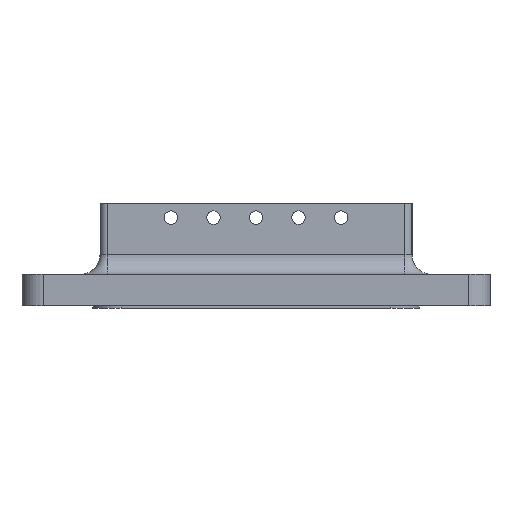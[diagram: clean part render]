
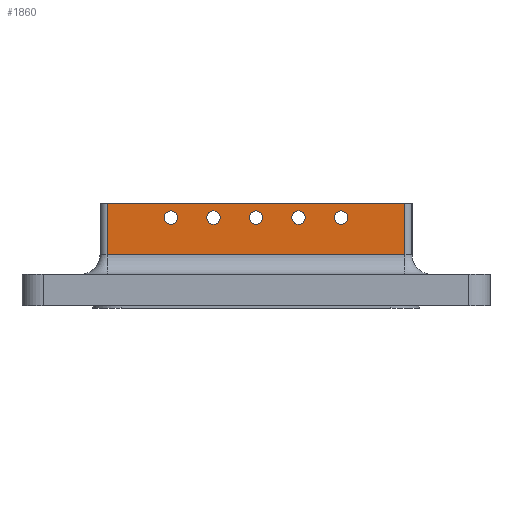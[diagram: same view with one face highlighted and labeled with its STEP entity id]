
A CAD part, left-side view. The second image highlights one B-rep face of the part: STEP entity #1860.
In plain terms, the highlighted planar face has unit normal (-1, 0, 0).
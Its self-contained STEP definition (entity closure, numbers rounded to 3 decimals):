
#1860=ADVANCED_FACE('Rib.2',(#4361,#4362,#4363,#4364,#4365,#4366),#4367,.T.);
#4361=FACE_OUTER_BOUND('',#7700,.T.);
#4362=FACE_BOUND('',#7701,.T.);
#4363=FACE_BOUND('',#7702,.T.);
#4364=FACE_BOUND('',#7703,.T.);
#4365=FACE_BOUND('',#7704,.T.);
#4366=FACE_BOUND('',#7705,.T.);
#4367=PLANE('',#7706);
#7700=EDGE_LOOP('',(#12936,#12937,#12938,#12939));
#7701=EDGE_LOOP('',(#12940,#12941,#12942,#12943));
#7702=EDGE_LOOP('',(#12944,#12945,#12946,#12947));
#7703=EDGE_LOOP('',(#12948,#12949,#12950,#12951));
#7704=EDGE_LOOP('',(#12952,#12953,#12954,#12955));
#7705=EDGE_LOOP('',(#12956,#12957,#12958,#12959));
#7706=AXIS2_PLACEMENT_3D('',#12960,#12961,#12962);
#12936=ORIENTED_EDGE('',*,*,#20414,.F.);
#12937=ORIENTED_EDGE('',*,*,#20476,.F.);
#12938=ORIENTED_EDGE('',*,*,#20473,.T.);
#12939=ORIENTED_EDGE('',*,*,#20374,.F.);
#12940=ORIENTED_EDGE('',*,*,#19409,.F.);
#12941=ORIENTED_EDGE('',*,*,#19412,.F.);
#12942=ORIENTED_EDGE('',*,*,#20477,.F.);
#12943=ORIENTED_EDGE('',*,*,#20478,.F.);
#12944=ORIENTED_EDGE('',*,*,#19310,.F.);
#12945=ORIENTED_EDGE('',*,*,#19313,.F.);
#12946=ORIENTED_EDGE('',*,*,#20479,.F.);
#12947=ORIENTED_EDGE('',*,*,#20480,.F.);
#12948=ORIENTED_EDGE('',*,*,#19382,.F.);
#12949=ORIENTED_EDGE('',*,*,#19385,.F.);
#12950=ORIENTED_EDGE('',*,*,#20481,.F.);
#12951=ORIENTED_EDGE('',*,*,#20482,.F.);
#12952=ORIENTED_EDGE('',*,*,#19274,.F.);
#12953=ORIENTED_EDGE('',*,*,#19277,.F.);
#12954=ORIENTED_EDGE('',*,*,#20483,.F.);
#12955=ORIENTED_EDGE('',*,*,#20484,.F.);
#12956=ORIENTED_EDGE('',*,*,#19418,.F.);
#12957=ORIENTED_EDGE('',*,*,#19421,.F.);
#12958=ORIENTED_EDGE('',*,*,#20485,.F.);
#12959=ORIENTED_EDGE('',*,*,#20486,.F.);
#12960=CARTESIAN_POINT('',(-185.0,110.0,74.0));
#12961=DIRECTION('',(-1.0,-0.0,-0.0));
#12962=DIRECTION('',(0.0,0.0,-1.0));
#19274=EDGE_CURVE('',#23109,#23105,#23111,.T.);
#19277=EDGE_CURVE('',#23113,#23109,#23116,.T.);
#19310=EDGE_CURVE('',#23169,#23165,#23171,.T.);
#19313=EDGE_CURVE('',#23173,#23169,#23176,.T.);
#19382=EDGE_CURVE('',#23289,#23285,#23291,.T.);
#19385=EDGE_CURVE('',#23293,#23289,#23296,.T.);
#19409=EDGE_CURVE('',#23334,#23330,#23336,.T.);
#19412=EDGE_CURVE('',#23338,#23334,#23341,.T.);
#19418=EDGE_CURVE('',#23349,#23345,#23351,.T.);
#19421=EDGE_CURVE('',#23353,#23349,#23356,.T.);
#20374=EDGE_CURVE('',#24859,#24883,#24887,.F.);
#20414=EDGE_CURVE('',#24939,#24859,#24941,.T.);
#20473=EDGE_CURVE('',#25034,#24883,#25035,.T.);
#20476=EDGE_CURVE('',#25034,#24939,#25038,.T.);
#20477=EDGE_CURVE('',#25039,#23338,#25040,.T.);
#20478=EDGE_CURVE('',#23330,#25039,#25041,.T.);
#20479=EDGE_CURVE('',#25042,#23173,#25043,.T.);
#20480=EDGE_CURVE('',#23165,#25042,#25044,.T.);
#20481=EDGE_CURVE('',#25045,#23293,#25046,.T.);
#20482=EDGE_CURVE('',#23285,#25045,#25047,.T.);
#20483=EDGE_CURVE('',#25048,#23113,#25049,.T.);
#20484=EDGE_CURVE('',#23105,#25048,#25050,.T.);
#20485=EDGE_CURVE('',#25051,#23353,#25052,.T.);
#20486=EDGE_CURVE('',#23345,#25051,#25053,.T.);
#23105=VERTEX_POINT('',#28458);
#23109=VERTEX_POINT('',#28463);
#23111=CIRCLE('',#28466,4.75);
#23113=VERTEX_POINT('',#28468);
#23116=CIRCLE('',#28472,4.75);
#23165=VERTEX_POINT('',#28530);
#23169=VERTEX_POINT('',#28535);
#23171=CIRCLE('',#28538,4.75);
#23173=VERTEX_POINT('',#28540);
#23176=CIRCLE('',#28544,4.75);
#23285=VERTEX_POINT('',#28674);
#23289=VERTEX_POINT('',#28679);
#23291=CIRCLE('',#28682,4.75);
#23293=VERTEX_POINT('',#28684);
#23296=CIRCLE('',#28688,4.75);
#23330=VERTEX_POINT('',#28728);
#23334=VERTEX_POINT('',#28733);
#23336=CIRCLE('',#28736,4.75);
#23338=VERTEX_POINT('',#28738);
#23341=CIRCLE('',#28742,4.75);
#23345=VERTEX_POINT('',#28746);
#23349=VERTEX_POINT('',#28751);
#23351=CIRCLE('',#28754,4.75);
#23353=VERTEX_POINT('',#28756);
#23356=CIRCLE('',#28760,4.75);
#24859=VERTEX_POINT('',#30540);
#24883=VERTEX_POINT('',#30567);
#24887=LINE('',#30571,#30572);
#24939=VERTEX_POINT('',#30637);
#24941=LINE('',#30639,#30640);
#25034=VERTEX_POINT('',#30749);
#25035=LINE('',#30750,#30751);
#25038=LINE('',#30754,#30755);
#25039=VERTEX_POINT('',#30756);
#25040=CIRCLE('',#30757,4.75);
#25041=CIRCLE('',#30758,4.75);
#25042=VERTEX_POINT('',#30759);
#25043=CIRCLE('',#30760,4.75);
#25044=CIRCLE('',#30761,4.75);
#25045=VERTEX_POINT('',#30762);
#25046=CIRCLE('',#30763,4.75);
#25047=CIRCLE('',#30764,4.75);
#25048=VERTEX_POINT('',#30765);
#25049=CIRCLE('',#30766,4.75);
#25050=CIRCLE('',#30767,4.75);
#25051=VERTEX_POINT('',#30768);
#25052=CIRCLE('',#30769,4.75);
#25053=CIRCLE('',#30770,4.75);
#28458=CARTESIAN_POINT('',(-185.0,-55.25,64.0));
#28463=CARTESIAN_POINT('',(-185.0,-64.169,66.277));
#28466=AXIS2_PLACEMENT_3D('',#34607,#34608,#34609);
#28468=CARTESIAN_POINT('',(-185.0,-64.75,64.0));
#28472=AXIS2_PLACEMENT_3D('',#34611,#34612,#34613);
#28530=CARTESIAN_POINT('',(-185.0,64.75,64.0));
#28535=CARTESIAN_POINT('',(-185.0,55.831,66.277));
#28538=AXIS2_PLACEMENT_3D('',#34667,#34668,#34669);
#28540=CARTESIAN_POINT('',(-185.0,55.25,64.0));
#28544=AXIS2_PLACEMENT_3D('',#34671,#34672,#34673);
#28674=CARTESIAN_POINT('',(-185.0,34.75,64.0));
#28679=CARTESIAN_POINT('',(-185.0,25.831,66.277));
#28682=AXIS2_PLACEMENT_3D('',#34787,#34788,#34789);
#28684=CARTESIAN_POINT('',(-185.0,25.25,64.0));
#28688=AXIS2_PLACEMENT_3D('',#34791,#34792,#34793);
#28728=CARTESIAN_POINT('',(-185.0,4.75,64.0));
#28733=CARTESIAN_POINT('',(-185.0,-4.169,66.277));
#28736=AXIS2_PLACEMENT_3D('',#34832,#34833,#34834);
#28738=CARTESIAN_POINT('',(-185.0,-4.75,64.0));
#28742=AXIS2_PLACEMENT_3D('',#34836,#34837,#34838);
#28746=CARTESIAN_POINT('',(-185.0,-25.25,64.0));
#28751=CARTESIAN_POINT('',(-185.0,-34.169,66.277));
#28754=AXIS2_PLACEMENT_3D('',#34847,#34848,#34849);
#28756=CARTESIAN_POINT('',(-185.0,-34.75,64.0));
#28760=AXIS2_PLACEMENT_3D('',#34851,#34852,#34853);
#30540=CARTESIAN_POINT('',(-185.0,-105.0,38.0));
#30567=CARTESIAN_POINT('',(-185.0,105.0,38.0));
#30571=CARTESIAN_POINT('',(-185.0,0.,38.0));
#30572=VECTOR('',#36607,1.0);
#30637=CARTESIAN_POINT('',(-185.0,-105.0,74.0));
#30639=CARTESIAN_POINT('',(-185.0,-105.0,56.0));
#30640=VECTOR('',#36660,1.0);
#30749=CARTESIAN_POINT('',(-185.0,105.0,74.0));
#30750=CARTESIAN_POINT('',(-185.0,105.0,56.0));
#30751=VECTOR('',#36785,1.0);
#30754=CARTESIAN_POINT('',(-185.0,0.0,74.0));
#30755=VECTOR('',#36789,1.0);
#30756=CARTESIAN_POINT('',(-185.0,4.169,61.723));
#30757=AXIS2_PLACEMENT_3D('',#36790,#36791,#36792);
#30758=AXIS2_PLACEMENT_3D('',#36793,#36794,#36795);
#30759=CARTESIAN_POINT('',(-185.0,64.169,61.723));
#30760=AXIS2_PLACEMENT_3D('',#36796,#36797,#36798);
#30761=AXIS2_PLACEMENT_3D('',#36799,#36800,#36801);
#30762=CARTESIAN_POINT('',(-185.0,34.169,61.723));
#30763=AXIS2_PLACEMENT_3D('',#36802,#36803,#36804);
#30764=AXIS2_PLACEMENT_3D('',#36805,#36806,#36807);
#30765=CARTESIAN_POINT('',(-185.0,-55.831,61.723));
#30766=AXIS2_PLACEMENT_3D('',#36808,#36809,#36810);
#30767=AXIS2_PLACEMENT_3D('',#36811,#36812,#36813);
#30768=CARTESIAN_POINT('',(-185.0,-25.831,61.723));
#30769=AXIS2_PLACEMENT_3D('',#36814,#36815,#36816);
#30770=AXIS2_PLACEMENT_3D('',#36817,#36818,#36819);
#34607=CARTESIAN_POINT('',(-185.0,-60.0,64.0));
#34608=DIRECTION('',(-1.0,-0.0,-0.0));
#34609=DIRECTION('',(0.0,0.0,-1.0));
#34611=CARTESIAN_POINT('',(-185.0,-60.0,64.0));
#34612=DIRECTION('',(-1.0,-0.0,-0.0));
#34613=DIRECTION('',(0.0,0.0,-1.0));
#34667=CARTESIAN_POINT('',(-185.0,60.0,64.0));
#34668=DIRECTION('',(-1.0,-0.0,-0.0));
#34669=DIRECTION('',(0.0,0.0,-1.0));
#34671=CARTESIAN_POINT('',(-185.0,60.0,64.0));
#34672=DIRECTION('',(-1.0,-0.0,-0.0));
#34673=DIRECTION('',(0.0,0.0,-1.0));
#34787=CARTESIAN_POINT('',(-185.0,30.0,64.0));
#34788=DIRECTION('',(-1.0,-0.0,-0.0));
#34789=DIRECTION('',(0.0,0.0,-1.0));
#34791=CARTESIAN_POINT('',(-185.0,30.0,64.0));
#34792=DIRECTION('',(-1.0,-0.0,-0.0));
#34793=DIRECTION('',(0.0,0.0,-1.0));
#34832=CARTESIAN_POINT('',(-185.0,0.0,64.0));
#34833=DIRECTION('',(-1.0,-0.0,-0.0));
#34834=DIRECTION('',(0.0,0.0,-1.0));
#34836=CARTESIAN_POINT('',(-185.0,0.0,64.0));
#34837=DIRECTION('',(-1.0,-0.0,-0.0));
#34838=DIRECTION('',(0.0,0.0,-1.0));
#34847=CARTESIAN_POINT('',(-185.0,-30.0,64.0));
#34848=DIRECTION('',(-1.0,-0.0,-0.0));
#34849=DIRECTION('',(0.0,0.0,-1.0));
#34851=CARTESIAN_POINT('',(-185.0,-30.0,64.0));
#34852=DIRECTION('',(-1.0,-0.0,-0.0));
#34853=DIRECTION('',(0.0,0.0,-1.0));
#36607=DIRECTION('',(0.0,-1.0,0.0));
#36660=DIRECTION('',(0.0,0.0,-1.0));
#36785=DIRECTION('',(0.0,0.0,-1.0));
#36789=DIRECTION('',(0.0,-1.0,0.0));
#36790=CARTESIAN_POINT('',(-185.0,0.0,64.0));
#36791=DIRECTION('',(-1.0,-0.0,-0.0));
#36792=DIRECTION('',(0.0,0.0,-1.0));
#36793=CARTESIAN_POINT('',(-185.0,0.0,64.0));
#36794=DIRECTION('',(-1.0,-0.0,-0.0));
#36795=DIRECTION('',(0.0,0.0,-1.0));
#36796=CARTESIAN_POINT('',(-185.0,60.0,64.0));
#36797=DIRECTION('',(-1.0,-0.0,-0.0));
#36798=DIRECTION('',(0.0,0.0,-1.0));
#36799=CARTESIAN_POINT('',(-185.0,60.0,64.0));
#36800=DIRECTION('',(-1.0,-0.0,-0.0));
#36801=DIRECTION('',(0.0,0.0,-1.0));
#36802=CARTESIAN_POINT('',(-185.0,30.0,64.0));
#36803=DIRECTION('',(-1.0,-0.0,-0.0));
#36804=DIRECTION('',(0.0,0.0,-1.0));
#36805=CARTESIAN_POINT('',(-185.0,30.0,64.0));
#36806=DIRECTION('',(-1.0,-0.0,-0.0));
#36807=DIRECTION('',(0.0,0.0,-1.0));
#36808=CARTESIAN_POINT('',(-185.0,-60.0,64.0));
#36809=DIRECTION('',(-1.0,-0.0,-0.0));
#36810=DIRECTION('',(0.0,0.0,-1.0));
#36811=CARTESIAN_POINT('',(-185.0,-60.0,64.0));
#36812=DIRECTION('',(-1.0,-0.0,-0.0));
#36813=DIRECTION('',(0.0,0.0,-1.0));
#36814=CARTESIAN_POINT('',(-185.0,-30.0,64.0));
#36815=DIRECTION('',(-1.0,-0.0,-0.0));
#36816=DIRECTION('',(0.0,0.0,-1.0));
#36817=CARTESIAN_POINT('',(-185.0,-30.0,64.0));
#36818=DIRECTION('',(-1.0,-0.0,-0.0));
#36819=DIRECTION('',(0.0,0.0,-1.0));
